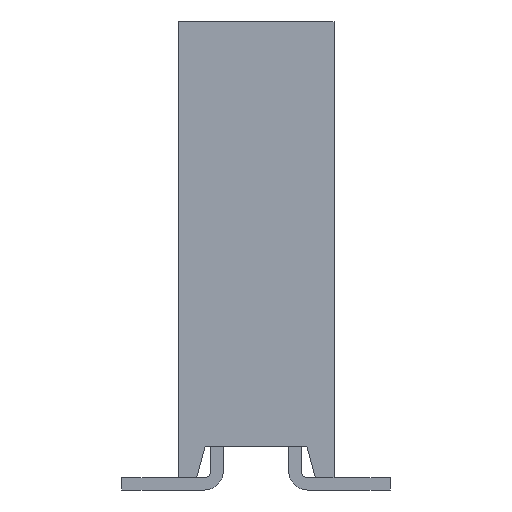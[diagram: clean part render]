
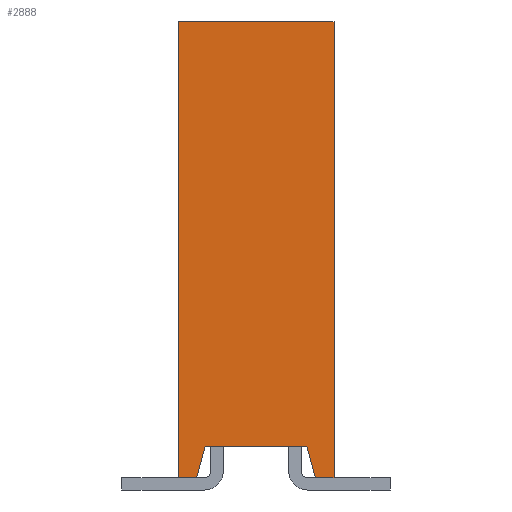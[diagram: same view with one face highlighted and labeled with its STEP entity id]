
A CAD part, front view. The second image highlights one B-rep face of the part: STEP entity #2888.
In plain terms, the highlighted planar face has unit normal (0, -1, 0) as drawn and (0, 1, 0) by its records, which use the part's own axes.
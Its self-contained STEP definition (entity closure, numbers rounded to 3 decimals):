
#2726 = VERTEX_POINT('',#2727);
#2727 = CARTESIAN_POINT('',(-1.25,1.27,7.5));
#2744 = VERTEX_POINT('',#2745);
#2745 = CARTESIAN_POINT('',(1.25,1.27,7.5));
#2751 = EDGE_CURVE('',#2744,#2726,#2752,.T.);
#2752 = LINE('',#2753,#2754);
#2753 = CARTESIAN_POINT('',(1.25,1.27,7.5));
#2754 = VECTOR('',#2755,1.);
#2755 = DIRECTION('',(-1.,0.,0.));
#2861 = EDGE_CURVE('',#2862,#2726,#2864,.T.);
#2862 = VERTEX_POINT('',#2863);
#2863 = CARTESIAN_POINT('',(-1.25,1.27,0.2));
#2864 = LINE('',#2865,#2866);
#2865 = CARTESIAN_POINT('',(-1.25,1.27,0.2));
#2866 = VECTOR('',#2867,1.);
#2867 = DIRECTION('',(0.,0.,1.));
#2888 = ADVANCED_FACE('',(#2889),#2939,.F.);
#2889 = FACE_BOUND('',#2890,.F.);
#2890 = EDGE_LOOP('',(#2891,#2901,#2907,#2908,#2909,#2917,#2925,#2933));
#2891 = ORIENTED_EDGE('',*,*,#2892,.F.);
#2892 = EDGE_CURVE('',#2893,#2895,#2897,.T.);
#2893 = VERTEX_POINT('',#2894);
#2894 = CARTESIAN_POINT('',(1.25,1.27,0.2));
#2895 = VERTEX_POINT('',#2896);
#2896 = CARTESIAN_POINT('',(0.95,1.27,0.2));
#2897 = LINE('',#2898,#2899);
#2898 = CARTESIAN_POINT('',(1.25,1.27,0.2));
#2899 = VECTOR('',#2900,1.);
#2900 = DIRECTION('',(-1.,0.,0.));
#2901 = ORIENTED_EDGE('',*,*,#2902,.T.);
#2902 = EDGE_CURVE('',#2893,#2744,#2903,.T.);
#2903 = LINE('',#2904,#2905);
#2904 = CARTESIAN_POINT('',(1.25,1.27,0.2));
#2905 = VECTOR('',#2906,1.);
#2906 = DIRECTION('',(0.,0.,1.));
#2907 = ORIENTED_EDGE('',*,*,#2751,.T.);
#2908 = ORIENTED_EDGE('',*,*,#2861,.F.);
#2909 = ORIENTED_EDGE('',*,*,#2910,.F.);
#2910 = EDGE_CURVE('',#2911,#2862,#2913,.T.);
#2911 = VERTEX_POINT('',#2912);
#2912 = CARTESIAN_POINT('',(-0.95,1.27,0.2));
#2913 = LINE('',#2914,#2915);
#2914 = CARTESIAN_POINT('',(1.25,1.27,0.2));
#2915 = VECTOR('',#2916,1.);
#2916 = DIRECTION('',(-1.,0.,0.));
#2917 = ORIENTED_EDGE('',*,*,#2918,.T.);
#2918 = EDGE_CURVE('',#2911,#2919,#2921,.T.);
#2919 = VERTEX_POINT('',#2920);
#2920 = CARTESIAN_POINT('',(-0.816,1.27,0.7));
#2921 = LINE('',#2922,#2923);
#2922 = CARTESIAN_POINT('',(-0.876,1.27,0.475));
#2923 = VECTOR('',#2924,1.);
#2924 = DIRECTION('',(0.259,0.,0.966));
#2925 = ORIENTED_EDGE('',*,*,#2926,.T.);
#2926 = EDGE_CURVE('',#2919,#2927,#2929,.T.);
#2927 = VERTEX_POINT('',#2928);
#2928 = CARTESIAN_POINT('',(0.816,1.27,0.7));
#2929 = LINE('',#2930,#2931);
#2930 = CARTESIAN_POINT('',(0.217,1.27,0.7));
#2931 = VECTOR('',#2932,1.);
#2932 = DIRECTION('',(1.,0.,0.));
#2933 = ORIENTED_EDGE('',*,*,#2934,.T.);
#2934 = EDGE_CURVE('',#2927,#2895,#2935,.T.);
#2935 = LINE('',#2936,#2937);
#2936 = CARTESIAN_POINT('',(0.893,1.27,0.413));
#2937 = VECTOR('',#2938,1.);
#2938 = DIRECTION('',(0.259,0.,-0.966));
#2939 = PLANE('',#2940);
#2940 = AXIS2_PLACEMENT_3D('',#2941,#2942,#2943);
#2941 = CARTESIAN_POINT('',(1.25,1.27,0.2));
#2942 = DIRECTION('',(0.,-1.,0.));
#2943 = DIRECTION('',(-1.,0.,0.));
